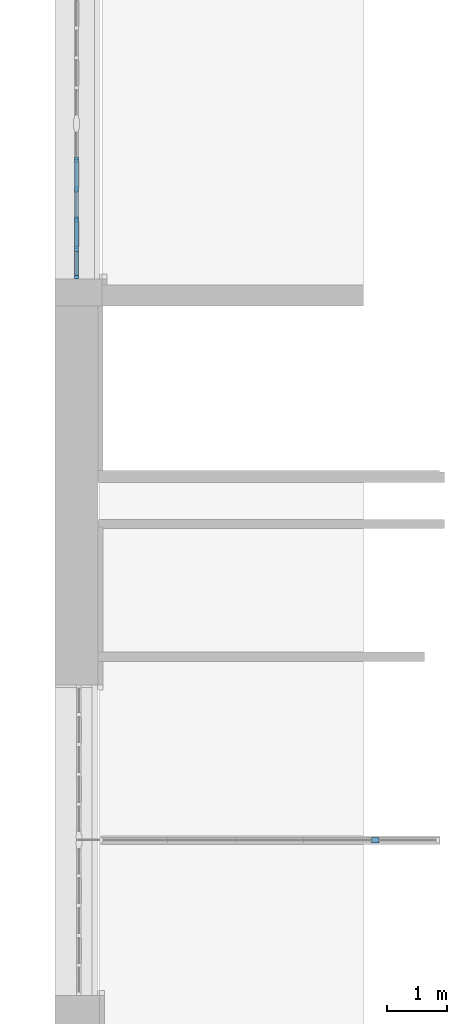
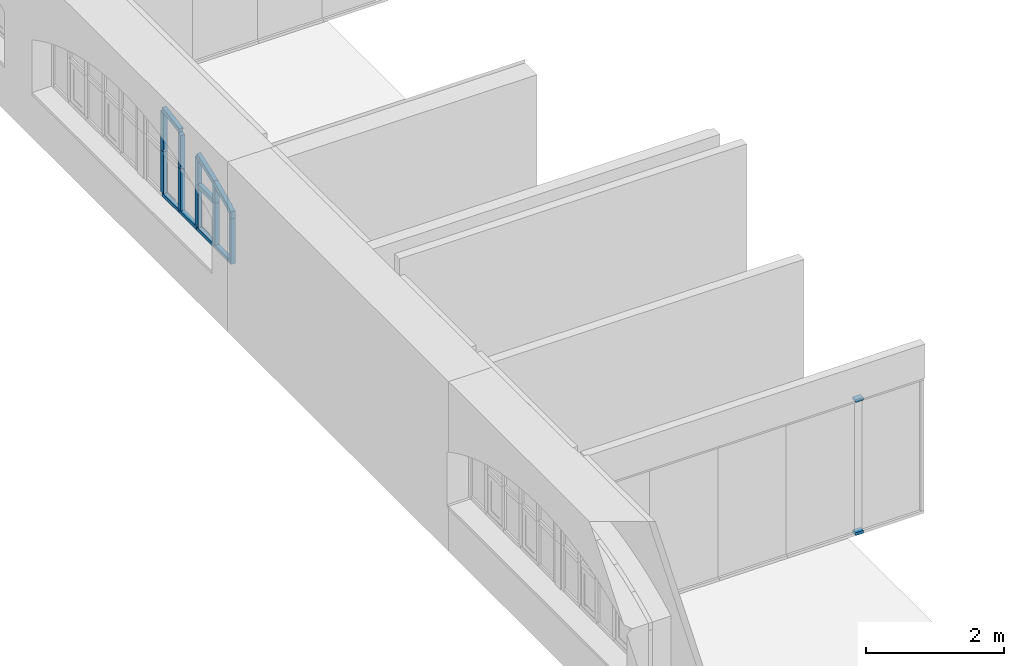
# One storey, part 12 of 32: 20 members, 2 elements without a shape of their own.
"""IFC2X3 building model written with IfcOpenShell, lengths in millimetres."""

from ifc_helpers import new_model, entity, si_unit, converted_unit, derived_unit, direction, frame, frame_2d, origin, place, context, subcontext, project, spatial, polyline, circle_curve, parameter, trimmed, segment, composite_curve, rectangle, outline, extrude, source, transform, mapped, material, type_object, type_shapes, element, aggregate, save


model = new_model("IFC2X3")

# Units and contexts
model_context = context("Model", 3, precision=0.01, world=origin(), true_north=direction((6.123031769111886e-17, 1.0)))
body_context = subcontext(model_context, "Body", "Model", "MODEL_VIEW")
ifc_project = project(units=[si_unit("LENGTHUNIT", "METRE", prefix="MILLI"), si_unit("AREAUNIT", "SQUARE_METRE"), si_unit("VOLUMEUNIT", "CUBIC_METRE"), converted_unit("PLANEANGLEUNIT", "DEGREE", entity("IfcPlaneAngleMeasure", 0.017453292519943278), si_unit("PLANEANGLEUNIT", "RADIAN"), dimensions=[0, 0, 0, 0, 0, 0, 0]), si_unit("MASSUNIT", "GRAM", prefix="KILO"), derived_unit("MASSDENSITYUNIT", [(si_unit("MASSUNIT", "GRAM", prefix="KILO"), 1), (si_unit("LENGTHUNIT", "METRE"), -3)]), derived_unit("IONCONCENTRATIONUNIT", [(si_unit("MASSUNIT", "GRAM", prefix="KILO"), 1), (si_unit("LENGTHUNIT", "METRE"), -3)]), derived_unit("MOMENTOFINERTIAUNIT", [(si_unit("LENGTHUNIT", "METRE"), 4)]), si_unit("TIMEUNIT", "SECOND"), si_unit("FREQUENCYUNIT", "HERTZ"), si_unit("THERMODYNAMICTEMPERATUREUNIT", "DEGREE_CELSIUS"), derived_unit("THERMALTRANSMITTANCEUNIT", [(si_unit("MASSUNIT", "GRAM", prefix="KILO"), 1), (si_unit("THERMODYNAMICTEMPERATUREUNIT", "KELVIN"), -1), (si_unit("TIMEUNIT", "SECOND"), -3)]), derived_unit("THERMALCONDUCTANCEUNIT", [(si_unit("MASSUNIT", "GRAM", prefix="KILO"), 1), (si_unit("THERMODYNAMICTEMPERATUREUNIT", "KELVIN"), -1), (si_unit("TIMEUNIT", "SECOND"), -3), (si_unit("LENGTHUNIT", "METRE"), 1)]), derived_unit("VOLUMETRICFLOWRATEUNIT", [(si_unit("LENGTHUNIT", "METRE", prefix="DECI"), 3), (si_unit("TIMEUNIT", "SECOND"), -1)]), derived_unit("MASSFLOWRATEUNIT", [(si_unit("MASSUNIT", "GRAM", prefix="KILO"), 1), (si_unit("TIMEUNIT", "SECOND"), -1)]), derived_unit("ROTATIONALFREQUENCYUNIT", [(si_unit("TIMEUNIT", "SECOND"), -1)]), si_unit("ELECTRICCURRENTUNIT", "AMPERE"), si_unit("ELECTRICVOLTAGEUNIT", "VOLT"), si_unit("POWERUNIT", "WATT"), si_unit("FORCEUNIT", "NEWTON", prefix="KILO"), si_unit("ILLUMINANCEUNIT", "LUX"), si_unit("LUMINOUSFLUXUNIT", "LUMEN"), si_unit("LUMINOUSINTENSITYUNIT", "CANDELA"), si_unit("ENERGYUNIT", "JOULE"), derived_unit("USERDEFINED", [(si_unit("MASSUNIT", "GRAM", prefix="KILO"), -1), (si_unit("LENGTHUNIT", "METRE"), -2), (si_unit("TIMEUNIT", "SECOND"), 3), (si_unit("LUMINOUSFLUXUNIT", "LUMEN"), 1)]), derived_unit("USERDEFINED", [(si_unit("MASSUNIT", "GRAM", prefix="KILO"), 1), (si_unit("TIMEUNIT", "SECOND"), -3), (si_unit("LENGTHUNIT", "METRE"), 3), (si_unit("ELECTRICCURRENTUNIT", "AMPERE"), -2)]), derived_unit("SOUNDPOWERUNIT", [(si_unit("MASSUNIT", "GRAM", prefix="KILO"), 1), (si_unit("TIMEUNIT", "SECOND"), -3), (si_unit("LENGTHUNIT", "METRE"), 2)]), derived_unit("SOUNDPRESSUREUNIT", [(si_unit("MASSUNIT", "GRAM", prefix="KILO"), 1), (si_unit("LENGTHUNIT", "METRE"), -1), (si_unit("TIMEUNIT", "SECOND"), -2)]), derived_unit("LINEARVELOCITYUNIT", [(si_unit("LENGTHUNIT", "METRE"), 1), (si_unit("TIMEUNIT", "SECOND"), -1)]), si_unit("PRESSUREUNIT", "PASCAL"), derived_unit("USERDEFINED", [(si_unit("MASSUNIT", "GRAM", prefix="KILO"), 1), (si_unit("LENGTHUNIT", "METRE"), -2), (si_unit("TIMEUNIT", "SECOND"), -2)]), derived_unit("LINEARFORCEUNIT", [(si_unit("MASSUNIT", "GRAM", prefix="KILO"), 1), (si_unit("TIMEUNIT", "SECOND"), -2)]), derived_unit("PLANARFORCEUNIT", [(si_unit("MASSUNIT", "GRAM", prefix="KILO"), 1), (si_unit("LENGTHUNIT", "METRE"), -1), (si_unit("TIMEUNIT", "SECOND"), -2)]), derived_unit("SPECIFICHEATCAPACITYUNIT", [(si_unit("THERMODYNAMICTEMPERATUREUNIT", "KELVIN"), -1), (si_unit("LENGTHUNIT", "METRE"), 2), (si_unit("TIMEUNIT", "SECOND"), -2)]), derived_unit("HEATFLUXDENSITYUNIT", [(si_unit("MASSUNIT", "GRAM", prefix="KILO"), 1), (si_unit("TIMEUNIT", "SECOND"), -3)]), derived_unit("HEATINGVALUEUNIT", [(si_unit("LENGTHUNIT", "METRE"), 2), (si_unit("TIMEUNIT", "SECOND"), -2)]), derived_unit("VAPORPERMEABILITYUNIT", [(si_unit("LENGTHUNIT", "METRE"), -1), (si_unit("TIMEUNIT", "SECOND"), 1)]), derived_unit("DYNAMICVISCOSITYUNIT", [(si_unit("MASSUNIT", "GRAM", prefix="KILO"), 1), (si_unit("TIMEUNIT", "SECOND"), -1), (si_unit("LENGTHUNIT", "METRE"), -1)]), derived_unit("THERMALEXPANSIONCOEFFICIENTUNIT", [(si_unit("THERMODYNAMICTEMPERATUREUNIT", "KELVIN"), -1)]), derived_unit("MODULUSOFELASTICITYUNIT", [(si_unit("MASSUNIT", "GRAM", prefix="KILO"), 1), (si_unit("LENGTHUNIT", "METRE"), -1), (si_unit("TIMEUNIT", "SECOND"), -2)]), derived_unit("ISOTHERMALMOISTURECAPACITYUNIT", [(si_unit("MASSUNIT", "GRAM", prefix="KILO"), -1), (si_unit("LENGTHUNIT", "METRE"), 3)]), derived_unit("MOISTUREDIFFUSIVITYUNIT", [(si_unit("TIMEUNIT", "SECOND"), -1), (si_unit("LENGTHUNIT", "METRE"), 2)]), derived_unit("MASSPERLENGTHUNIT", [(si_unit("MASSUNIT", "GRAM", prefix="KILO"), 1), (si_unit("LENGTHUNIT", "METRE"), -1)]), derived_unit("THERMALRESISTANCEUNIT", [(si_unit("MASSUNIT", "GRAM", prefix="KILO"), -1), (si_unit("TIMEUNIT", "SECOND"), 3), (si_unit("THERMODYNAMICTEMPERATUREUNIT", "KELVIN"), 1)]), derived_unit("ACCELERATIONUNIT", [(si_unit("LENGTHUNIT", "METRE"), 1), (si_unit("TIMEUNIT", "SECOND"), -2)]), derived_unit("ANGULARVELOCITYUNIT", [(si_unit("TIMEUNIT", "SECOND"), -1), (si_unit("PLANEANGLEUNIT", "RADIAN"), 1)]), derived_unit("LINEARSTIFFNESSUNIT", [(si_unit("MASSUNIT", "GRAM", prefix="KILO"), 1), (si_unit("TIMEUNIT", "SECOND"), -2)]), derived_unit("WARPINGCONSTANTUNIT", [(si_unit("LENGTHUNIT", "METRE"), 6)]), derived_unit("LINEARMOMENTUNIT", [(si_unit("MASSUNIT", "GRAM", prefix="KILO"), 1), (si_unit("LENGTHUNIT", "METRE"), 1), (si_unit("TIMEUNIT", "SECOND"), -2)]), derived_unit("TORQUEUNIT", [(si_unit("MASSUNIT", "GRAM", prefix="KILO"), 1), (si_unit("LENGTHUNIT", "METRE"), 2), (si_unit("TIMEUNIT", "SECOND"), -2)])], contexts=[model_context])

# Site, building, storey
site_placement = place(None, origin())
site = spatial("IfcSite", under=ifc_project, at=site_placement, Name="Default", CompositionType="ELEMENT")
building_placement = place(site_placement, origin())
building = spatial("IfcBuilding", under=site, at=building_placement, Name="Eesti Rahvusraamatukogu hoone renoveerimise projekteerimistööd", CompositionType="ELEMENT")
storey_placement = place(building_placement, frame((0.0, 0.0, 4950.000000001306)))
storey = spatial("IfcBuildingStorey", under=building, at=storey_placement, Name="2. korrus", CompositionType="ELEMENT", Elevation=4950.000000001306)

# Curtain wall, members
curtain_wall_type_1 = type_object("IfcCurtainWallType", Name="Curtain Wall:VLS Klaasvahesein profiilita 38db", PredefinedType="NOTDEFINED")
curtain_wall_1_placement = place(storey_placement, frame((0.0, 0.0, -4950.000000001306)))
curtain_wall_1 = element("IfcCurtainWall", 1, at=curtain_wall_1_placement, inside=storey, type_object=curtain_wall_type_1, Name="Curtain Wall:VLS Klaasvahesein profiilita 38db", ObjectType="Curtain Wall:VLS Klaasvahesein profiilita 38db")
ifc_material_1 = material(Name="Aluminum")
member_type_1 = type_object("IfcMemberType", Name="Rectangular Mullion:50mm x 92mm", PredefinedType="MULLION", material=ifc_material_1)
shared_shape_1 = source(origin(), body_context, "Body", "SweptSolid", [
    extrude(rectangle(XDim=50.0, YDim=92.0, at=frame_2d((0.0, 3.552713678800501e-15), x_axis=(1.0, 0.0))), frame((-25.0, 0.0, -128.3333333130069), z_axis=(0.0, 0.0, 1.0), x_axis=(-1.0, 0.0, 0.0)), (0.0, 0.0, 1.0), 128.3333333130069),
])
type_shapes(member_type_1, [shared_shape_1])
member_1_placement = place(curtain_wall_1_placement, frame((-31480.000000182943, 21350.0, 4950.0), z_axis=(-1.0, 0.0, 0.0), x_axis=(0.0, 0.0, -1.0)))
member_1 = element("IfcMember", 2, at=member_1_placement, type_object=member_type_1, material=ifc_material_1, Name="Rectangular Mullion:50mm x 92mm", ObjectType="Rectangular Mullion:50mm x 92mm", context=body_context, shape_type="MappedRepresentation", body=[
    mapped(shared_shape_1, transform((0.0, 0.0, 0.0), scale=1.0)),
])
member_type_2 = type_object("IfcMemberType", Name="Rectangular Mullion:50mm x 92mm", PredefinedType="MULLION", material=ifc_material_1)
shared_shape_2 = source(origin(), body_context, "Body", "SweptSolid", [
    extrude(rectangle(XDim=50.0, YDim=92.0, at=frame_2d((0.0, 3.552713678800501e-15), x_axis=(1.0, 0.0))), frame((-25.0, 0.0, -128.3333333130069), z_axis=(0.0, 0.0, 1.0), x_axis=(-1.0, 0.0, 0.0)), (0.0, 0.0, 1.0), 128.3333333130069),
])
type_shapes(member_type_2, [shared_shape_2])
member_2_placement = place(curtain_wall_1_placement, frame((-31351.666666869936, 21350.0, 7350.0), z_axis=(1.0, 0.0, 0.0), x_axis=(0.0, 0.0, 1.0)))
member_2 = element("IfcMember", 3, at=member_2_placement, type_object=member_type_2, material=ifc_material_1, Name="Rectangular Mullion:50mm x 92mm", ObjectType="Rectangular Mullion:50mm x 92mm", context=body_context, shape_type="MappedRepresentation", body=[
    mapped(shared_shape_2, transform((0.0, 0.0, 0.0), scale=1.0)),
])
aggregate(curtain_wall_1, [member_1, member_2])

curtain_wall_type_2 = type_object("IfcCurtainWallType", Name="Curtain Wall:Ak-04", PredefinedType="NOTDEFINED")
curtain_wall_2_placement = place(storey_placement, frame((0.0, 0.0, -4950.000000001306)))
curtain_wall_2 = element("IfcCurtainWall", 4, at=curtain_wall_2_placement, inside=storey, type_object=curtain_wall_type_2, Name="Curtain Wall:Ak-04", ObjectType="Curtain Wall:Ak-04")
ifc_material_2 = material(Name="LUMION_dark steel window frames")
member_type_3 = type_object("IfcMemberType", Name="Rectangular Mullion:NEW 80x70mm", PredefinedType="MULLION", material=ifc_material_2)
shared_shape_3 = source(origin(), body_context, "Body", "SweptSolid", [
    extrude(rectangle(XDim=80.0, YDim=70.0, at=frame_2d((0.0, -3.552713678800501e-15), x_axis=(1.0, 0.0))), frame((0.0, 0.0, -420.0), z_axis=(0.0, 0.0, 1.0), x_axis=(-1.0, 0.0, 0.0)), (0.0, 0.0, 1.0), 419.999999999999),
])
type_shapes(member_type_3, [shared_shape_3])
member_3_placement = place(curtain_wall_2_placement, frame((-36425.0, 31295.440291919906, 6550.000000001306), z_axis=(0.0, -1.0, 0.0), x_axis=(0.0, 0.0, 1.0)))
member_3 = element("IfcMember", 5, at=member_3_placement, type_object=member_type_3, material=ifc_material_2, Name="Rectangular Mullion:NEW 80x70mm", ObjectType="Rectangular Mullion:NEW 80x70mm", context=body_context, shape_type="MappedRepresentation", body=[
    mapped(shared_shape_3, transform((0.0, 0.0, 0.0), scale=1.0)),
])
member_type_4 = type_object("IfcMemberType", Name="Rectangular Mullion:NEW 60x70mm", PredefinedType="MULLION", material=ifc_material_2)
shared_shape_4 = source(origin(), body_context, "Body", "SweptSolid", [
    extrude(rectangle(XDim=60.0, YDim=70.0, at=frame_2d((0.0, 3.552713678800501e-15), x_axis=(1.0, 0.0))), frame((-30.0, 0.0, -500.0), z_axis=(0.0, 0.0, 1.0), x_axis=(-1.0, 0.0, 0.0)), (0.0, 0.0, 1.0), 499.999999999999),
])
type_shapes(member_type_4, [shared_shape_4])
member_4_placement = place(curtain_wall_2_placement, frame((-36425.0, 32755.440291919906, 5750.000000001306), z_axis=(0.0, 1.0, 0.0), x_axis=(0.0, 0.0, -1.0)))
member_4 = element("IfcMember", 6, at=member_4_placement, type_object=member_type_4, material=ifc_material_2, Name="Rectangular Mullion:NEW 60x70mm", ObjectType="Rectangular Mullion:NEW 60x70mm", context=body_context, shape_type="MappedRepresentation", body=[
    mapped(shared_shape_4, transform((0.0, 0.0, 0.0), scale=1.0)),
])
member_5_placement = place(curtain_wall_2_placement, frame((-36425.0, 32255.44029191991, 5750.000000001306), z_axis=(0.0, 1.0, 0.0), x_axis=(0.0, 0.0, -1.0)))
member_5 = element("IfcMember", 7, at=member_5_placement, type_object=member_type_4, material=ifc_material_2, Name="Rectangular Mullion:NEW 60x70mm", ObjectType="Rectangular Mullion:NEW 60x70mm", context=body_context, shape_type="MappedRepresentation", body=[
    mapped(shared_shape_4, transform((0.0, 0.0, 0.0), scale=1.0)),
])
member_6_placement = place(curtain_wall_2_placement, frame((-36425.0, 31755.44029191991, 5750.000000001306), z_axis=(0.0, 1.0, 0.0), x_axis=(0.0, 0.0, -1.0)))
member_6 = element("IfcMember", 8, at=member_6_placement, type_object=member_type_4, material=ifc_material_2, Name="Rectangular Mullion:NEW 60x70mm", ObjectType="Rectangular Mullion:NEW 60x70mm", context=body_context, shape_type="MappedRepresentation", body=[
    mapped(shared_shape_4, transform((0.0, 0.0, 0.0), scale=1.0)),
])
member_type_5 = type_object("IfcMemberType", Name="Rectangular Mullion:NEW 60x70mm", PredefinedType="MULLION", material=ifc_material_2)
shared_shape_5 = source(origin(), body_context, "Body", "SweptSolid", [
    extrude(rectangle(XDim=60.0, YDim=70.0, at=frame_2d((0.0, 3.552713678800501e-15), x_axis=(1.0, 0.0))), frame((-30.0, 0.0, -440.0), z_axis=(0.0, 0.0, 1.0), x_axis=(-1.0, 0.0, 0.0)), (0.0, 0.0, 1.0), 439.9999999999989),
])
type_shapes(member_type_5, [shared_shape_5])
member_7_placement = place(curtain_wall_2_placement, frame((-36425.0, 31255.44029191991, 5750.000000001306), z_axis=(0.0, 1.0, 0.0), x_axis=(0.0, 0.0, -1.0)))
member_7 = element("IfcMember", 9, at=member_7_placement, type_object=member_type_5, material=ifc_material_2, Name="Rectangular Mullion:NEW 60x70mm", ObjectType="Rectangular Mullion:NEW 60x70mm", context=body_context, shape_type="MappedRepresentation", body=[
    mapped(shared_shape_5, transform((0.0, 0.0, 0.0), scale=1.0)),
])
member_type_6 = type_object("IfcMemberType", Name="Rectangular Mullion:NEW 80x70mm", PredefinedType="MULLION", material=ifc_material_2)
shared_shape_6 = source(origin(), body_context, "Body", "SweptSolid", [
    extrude(outline(composite_curve([segment(polyline([(-174.30772999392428, -46.24561306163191), (94.42385048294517, -46.24561306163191)]), True, "CONTINUOUS"), segment(trimmed(circle_curve(frame_2d((-4754.083849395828, 2093.7543869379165), x_axis=(0.8754595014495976, -0.48329148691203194)), 5299.776119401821), [parameter(5.085231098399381)], [parameter(5.924265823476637)], True, "PARAMETER"), True, "CONTINUOUS"), segment(trimmed(circle_curve(frame_2d((-4754.0838493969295, 2093.7543869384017), x_axis=(0.9206661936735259, -0.3903508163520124)), 5299.776119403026), [parameter(0.0)], [parameter(0.10296582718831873)], True, "PARAMETER"), True, "CONTINUOUS"), segment(polyline([(128.9507517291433, 33.75438693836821), (-174.30772999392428, 33.75438693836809)]), True, "CONTINUOUS"), segment(polyline([(-174.30772999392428, 33.75438693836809), (-174.30772999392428, -46.24561306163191)]), True, "CONTINUOUS")], self_intersect=False)), frame((-6.245613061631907, -35.0, -174.30772999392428), z_axis=(0.0, 1.0, 0.0), x_axis=(0.0, 0.0, -1.0)), (0.0, 0.0, 1.0), 70.00000000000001),
])
type_shapes(member_type_6, [shared_shape_6])
member_8_placement = place(curtain_wall_2_placement, frame((-36425.0, 31255.440291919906, 6550.000000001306), z_axis=(0.0, 0.0, -1.0), x_axis=(0.0, -1.0, 0.0)))
member_8 = element("IfcMember", 10, at=member_8_placement, type_object=member_type_6, material=ifc_material_2, Name="Rectangular Mullion:NEW 80x70mm", ObjectType="Rectangular Mullion:NEW 80x70mm", context=body_context, shape_type="MappedRepresentation", body=[
    mapped(shared_shape_6, transform((0.0, 0.0, 0.0), scale=1.0)),
])
member_type_7 = type_object("IfcMemberType", Name="Rectangular Mullion:NEW 80x70mm", PredefinedType="MULLION", material=ifc_material_2)
shared_shape_7 = source(origin(), body_context, "Body", "SweptSolid", [
    extrude(rectangle(XDim=80.0, YDim=70.0, at=frame_2d((0.0, -3.552713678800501e-15), x_axis=(1.0, 0.0))), frame((0.0, 0.0, -740.0), z_axis=(0.0, 0.0, 1.0), x_axis=(-1.0, 0.0, 0.0)), (0.0, 0.0, 1.0), 740.0),
])
type_shapes(member_type_7, [shared_shape_7])
member_9_placement = place(curtain_wall_2_placement, frame((-36425.0, 31255.44029191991, 5810.000000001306), z_axis=(0.0, 0.0, -1.0), x_axis=(0.0, -1.0, 0.0)))
member_9 = element("IfcMember", 11, at=member_9_placement, type_object=member_type_7, material=ifc_material_2, Name="Rectangular Mullion:NEW 80x70mm", ObjectType="Rectangular Mullion:NEW 80x70mm", context=body_context, shape_type="MappedRepresentation", body=[
    mapped(shared_shape_7, transform((0.0, 0.0, 0.0), scale=1.0)),
])
member_10_placement = place(curtain_wall_2_placement, frame((-36425.0, 31755.44029191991, 5810.000000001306), z_axis=(0.0, 0.0, -1.0), x_axis=(0.0, -1.0, 0.0)))
member_10 = element("IfcMember", 12, at=member_10_placement, type_object=member_type_7, material=ifc_material_2, Name="Rectangular Mullion:NEW 80x70mm", ObjectType="Rectangular Mullion:NEW 80x70mm", context=body_context, shape_type="MappedRepresentation", body=[
    mapped(shared_shape_7, transform((0.0, 0.0, 0.0), scale=1.0)),
])
member_11_placement = place(curtain_wall_2_placement, frame((-36425.0, 32255.44029191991, 5810.000000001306), z_axis=(0.0, 0.0, -1.0), x_axis=(0.0, -1.0, 0.0)))
member_11 = element("IfcMember", 13, at=member_11_placement, type_object=member_type_7, material=ifc_material_2, Name="Rectangular Mullion:NEW 80x70mm", ObjectType="Rectangular Mullion:NEW 80x70mm", context=body_context, shape_type="MappedRepresentation", body=[
    mapped(shared_shape_7, transform((0.0, 0.0, 0.0), scale=1.0)),
])
member_12_placement = place(curtain_wall_2_placement, frame((-36425.0, 32755.440291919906, 5810.000000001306), z_axis=(0.0, 0.0, -1.0), x_axis=(0.0, -1.0, 0.0)))
member_12 = element("IfcMember", 14, at=member_12_placement, type_object=member_type_7, material=ifc_material_2, Name="Rectangular Mullion:NEW 80x70mm", ObjectType="Rectangular Mullion:NEW 80x70mm", context=body_context, shape_type="MappedRepresentation", body=[
    mapped(shared_shape_7, transform((0.0, 0.0, 0.0), scale=1.0)),
])
member_type_8 = type_object("IfcMemberType", Name="Rectangular Mullion:NEW 80x70mm", PredefinedType="MULLION", material=ifc_material_2)
shared_shape_8 = source(origin(), body_context, "Body", "SweptSolid", [
    extrude(outline(composite_curve([segment(polyline([(-285.0515721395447, -44.75856233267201), (174.81782335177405, -44.75856233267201)]), True, "CONTINUOUS"), segment(trimmed(circle_curve(frame_2d((-4864.82769154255, 1595.2414376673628), x_axis=(0.9206661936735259, -0.3903508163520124)), 5299.776119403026), [parameter(4.950420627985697)], [parameter(5.674213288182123)], True, "PARAMETER"), True, "CONTINUOUS"), segment(trimmed(circle_curve(frame_2d((-4864.827691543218, 1595.2414376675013), x_axis=(0.9547498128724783, -0.297410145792)), 5299.776119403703), [parameter(0.0)], [parameter(0.18342876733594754)], True, "PARAMETER"), True, "CONTINUOUS"), segment(polyline([(200.15275420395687, 35.24143766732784), (-285.0515721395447, 35.24143766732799)]), True, "CONTINUOUS"), segment(polyline([(-285.0515721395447, 35.24143766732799), (-285.0515721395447, -44.75856233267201)]), True, "CONTINUOUS")], self_intersect=False)), frame((-4.758562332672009, -35.0, -285.0515721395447), z_axis=(0.0, 1.0, 0.0), x_axis=(0.0, 0.0, -1.0)), (0.0, 0.0, 1.0), 70.00000000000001),
])
type_shapes(member_type_8, [shared_shape_8])
member_13_placement = place(curtain_wall_2_placement, frame((-36425.0, 31755.44029191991, 6550.000000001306), z_axis=(0.0, 0.0, -1.0), x_axis=(0.0, -1.0, 0.0)))
member_13 = element("IfcMember", 15, at=member_13_placement, type_object=member_type_8, material=ifc_material_2, Name="Rectangular Mullion:NEW 80x70mm", ObjectType="Rectangular Mullion:NEW 80x70mm", context=body_context, shape_type="MappedRepresentation", body=[
    mapped(shared_shape_8, transform((0.0, 0.0, 0.0), scale=1.0)),
])
member_type_9 = type_object("IfcMemberType", Name="Rectangular Mullion:NEW 80x70mm", PredefinedType="MULLION", material=ifc_material_2)
shared_shape_9 = source(origin(), body_context, "Body", "SweptSolid", [
    extrude(outline(composite_curve([segment(polyline([(-363.37678895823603, -43.27151160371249), (232.56220317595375, -43.27151160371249)]), True, "CONTINUOUS"), segment(trimmed(circle_curve(frame_2d((-4943.152908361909, 1096.728488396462), x_axis=(0.9547498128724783, -0.29741014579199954)), 5299.776119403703), [parameter(4.880521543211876)], [parameter(5.5036722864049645)], True, "PARAMETER"), True, "CONTINUOUS"), segment(trimmed(circle_curve(frame_2d((-4943.152908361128, 1096.72848839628), x_axis=(0.9788729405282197, -0.20446947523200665)), 5299.7761194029), [parameter(0.0)], [parameter(0.2609913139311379)], True, "PARAMETER"), True, "CONTINUOUS"), segment(polyline([(249.536848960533, 36.728488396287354), (-363.37678895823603, 36.72848839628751)]), True, "CONTINUOUS"), segment(polyline([(-363.37678895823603, 36.72848839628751), (-363.37678895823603, -43.27151160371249)]), True, "CONTINUOUS")], self_intersect=False)), frame((-3.271511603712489, -35.0, -363.37678895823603), z_axis=(0.0, 1.0, 0.0), x_axis=(0.0, 0.0, -1.0)), (0.0, 0.0, 1.0), 70.00000000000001),
])
type_shapes(member_type_9, [shared_shape_9])
member_14_placement = place(curtain_wall_2_placement, frame((-36425.0, 32255.44029191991, 6550.000000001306), z_axis=(0.0, 0.0, -1.0), x_axis=(0.0, -1.0, 0.0)))
member_14 = element("IfcMember", 16, at=member_14_placement, type_object=member_type_9, material=ifc_material_2, Name="Rectangular Mullion:NEW 80x70mm", ObjectType="Rectangular Mullion:NEW 80x70mm", context=body_context, shape_type="MappedRepresentation", body=[
    mapped(shared_shape_9, transform((0.0, 0.0, 0.0), scale=1.0)),
])
member_type_10 = type_object("IfcMemberType", Name="Rectangular Mullion:NEW 80x70mm", PredefinedType="MULLION", material=ifc_material_2)
shared_shape_10 = source(origin(), body_context, "Body", "SweptSolid", [
    extrude(outline(composite_curve([segment(polyline([(-411.69630029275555, -41.78446087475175), (269.51863863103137, -41.78446087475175)]), True, "CONTINUOUS"), segment(trimmed(circle_curve(frame_2d((-4991.472419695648, 598.2155391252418), x_axis=(0.9788729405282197, -0.20446947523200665)), 5299.7761194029), [parameter(4.862488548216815)], [parameter(5.39499243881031)], True, "PARAMETER"), True, "CONTINUOUS"), segment(trimmed(circle_curve(frame_2d((-4991.472419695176, 598.2155391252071), x_axis=(0.9937612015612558, -0.11152880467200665)), 5299.776119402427), [parameter(0.0)], [parameter(0.3379797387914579)], True, "PARAMETER"), True, "CONTINUOUS"), segment(polyline([(278.63449722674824, 38.21553912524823), (-411.69630029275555, 38.21553912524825)]), True, "CONTINUOUS"), segment(polyline([(-411.69630029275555, 38.21553912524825), (-411.69630029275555, -41.78446087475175)]), True, "CONTINUOUS")], self_intersect=False)), frame((-1.7844608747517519, -35.0, -411.69630029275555), z_axis=(0.0, 1.0, 0.0), x_axis=(0.0, 0.0, -1.0)), (0.0, 0.0, 1.0), 69.99999999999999),
])
type_shapes(member_type_10, [shared_shape_10])
member_15_placement = place(curtain_wall_2_placement, frame((-36425.0, 32755.440291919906, 6550.000000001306), z_axis=(0.0, 0.0, -1.0), x_axis=(0.0, -1.0, 0.0)))
member_15 = element("IfcMember", 17, at=member_15_placement, type_object=member_type_10, material=ifc_material_2, Name="Rectangular Mullion:NEW 80x70mm", ObjectType="Rectangular Mullion:NEW 80x70mm", context=body_context, shape_type="MappedRepresentation", body=[
    mapped(shared_shape_10, transform((0.0, 0.0, 0.0), scale=1.0)),
])
member_type_11 = type_object("IfcMemberType", Name="Rectangular Mullion:NEW 60x70mm", PredefinedType="MULLION", material=ifc_material_2)
shared_shape_11 = source(origin(), body_context, "Body", "SweptSolid", [
    extrude(outline(polyline([(-50.43550252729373, -30.0), (79.56449747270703, -30.0), (21.306507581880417, 30.0), (-50.43550252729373, 30.0), (-50.43550252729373, -30.0)])), frame((-30.0, -35.0, -50.43550252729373), z_axis=(0.0, 1.0, 0.0), x_axis=(0.0, 0.0, -1.0)), (0.0, 0.0, 1.0), 70.00000000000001),
])
type_shapes(member_type_11, [shared_shape_11])
member_16_placement = place(curtain_wall_2_placement, frame((-36425.0, 30755.440291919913, 6550.000000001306), z_axis=(0.0, 0.0, -1.0), x_axis=(0.0, -1.0, 0.0)))
member_16 = element("IfcMember", 18, at=member_16_placement, type_object=member_type_11, material=ifc_material_2, Name="Rectangular Mullion:NEW 60x70mm", ObjectType="Rectangular Mullion:NEW 60x70mm", context=body_context, shape_type="MappedRepresentation", body=[
    mapped(shared_shape_11, transform((0.0, 0.0, 0.0), scale=1.0)),
])
member_type_12 = type_object("IfcMemberType", Name="Rectangular Mullion:NEW 60x70mm", PredefinedType="MULLION", material=ifc_material_2)
shared_shape_12 = source(origin(), body_context, "Body", "SweptSolid", [
    extrude(rectangle(XDim=60.0, YDim=70.0, at=frame_2d((0.0, -3.552713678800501e-15), x_axis=(1.0, 0.0))), frame((-30.0, 0.0, -800.0), z_axis=(0.0, 0.0, 1.0), x_axis=(-1.0, 0.0, 0.0)), (0.0, 0.0, 1.0), 800.0),
])
type_shapes(member_type_12, [shared_shape_12])
member_17_placement = place(curtain_wall_2_placement, frame((-36425.0, 30755.440291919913, 5750.000000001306), z_axis=(0.0, 0.0, -1.0), x_axis=(0.0, -1.0, 0.0)))
member_17 = element("IfcMember", 19, at=member_17_placement, type_object=member_type_12, material=ifc_material_2, Name="Rectangular Mullion:NEW 60x70mm", ObjectType="Rectangular Mullion:NEW 60x70mm", context=body_context, shape_type="MappedRepresentation", body=[
    mapped(shared_shape_12, transform((0.0, 0.0, 0.0), scale=1.0)),
])
member_type_13 = type_object("IfcMemberType", Name="Rectangular Mullion:NEW 80x70mm", PredefinedType="MULLION", material=ifc_material_2)
shared_shape_13 = source(origin(), body_context, "Body", "SweptSolid", [
    extrude(outline(composite_curve([segment(polyline([(-51.82710825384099, -251.02635265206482), (28.172891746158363, -251.02635265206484)]), True, "CONTINUOUS"), segment(trimmed(circle_curve(frame_2d((5327.949011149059, -251.02635265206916), x_axis=(-0.995570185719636, 0.09402130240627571)), 5299.7761194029), [parameter(3.5622212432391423e-13)], [parameter(5.39499243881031)], True, "PARAMETER"), False, "CONTINUOUS"), segment(polyline([(51.64991568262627, 247.26550055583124), (-27.995699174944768, 254.78720474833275)]), True, "CONTINUOUS"), segment(trimmed(circle_curve(frame_2d((5327.949011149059, -251.02635265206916), x_axis=(-0.995570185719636, 0.09402130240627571)), 5379.7761194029), [parameter(3.5622212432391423e-13)], [parameter(5.39499243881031)], True, "PARAMETER"), True, "CONTINUOUS")], self_intersect=False)), frame((-51.827108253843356, -35.0, -251.02635265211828), z_axis=(0.0, 1.0, 0.0), x_axis=(-0.9955701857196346, 0.0, 0.09402130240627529)), (0.0, 0.0, 1.0), 70.00000000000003),
])
type_shapes(member_type_13, [shared_shape_13])
member_18_placement = place(curtain_wall_2_placement, frame((-36425.0, 32255.44029191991, 7236.3411499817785), z_axis=(0.0, -0.978872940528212, -0.20446947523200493), x_axis=(0.0, -0.20446947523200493, 0.978872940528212)))
member_18 = element("IfcMember", 20, at=member_18_placement, type_object=member_type_13, material=ifc_material_2, Name="Rectangular Mullion:NEW 80x70mm", ObjectType="Rectangular Mullion:NEW 80x70mm", context=body_context, shape_type="MappedRepresentation", body=[
    mapped(shared_shape_13, transform((0.0, 0.0, 0.0), scale=1.0)),
])
member_type_14 = type_object("IfcMemberType", Name="Rectangular Mullion:NEW 80x70mm", PredefinedType="MULLION", material=ifc_material_2)
shared_shape_14 = source(origin(), body_context, "Body", "SweptSolid", [
    extrude(outline(composite_curve([segment(polyline([(-53.081999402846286, -263.9769105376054), (26.918000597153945, -263.9769105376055)]), True, "CONTINUOUS"), segment(trimmed(circle_curve(frame_2d((5326.694120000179, -263.97691053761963), x_axis=(-0.9951001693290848, 0.09887190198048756)), 5299.776119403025), [parameter(3.5622212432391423e-13)], [parameter(5.674213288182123)], True, "PARAMETER"), False, "CONTINUOUS"), segment(polyline([(52.886006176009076, 260.0220344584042), (-26.722007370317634, 267.9317866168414)]), True, "CONTINUOUS"), segment(trimmed(circle_curve(frame_2d((5326.694120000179, -263.97691053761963), x_axis=(-0.9951001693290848, 0.09887190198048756)), 5379.776119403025), [parameter(3.5622212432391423e-13)], [parameter(5.674213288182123)], True, "PARAMETER"), True, "CONTINUOUS")], self_intersect=False)), frame((-53.0819994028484, -35.0, -263.97691053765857), z_axis=(0.0, 1.0, 0.0), x_axis=(-0.9951001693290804, 0.0, 0.09887190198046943)), (0.0, 0.0, 1.0), 69.99999999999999),
])
type_shapes(member_type_14, [shared_shape_14])
member_19_placement = place(curtain_wall_2_placement, frame((-36425.0, 31255.44029191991, 6923.201883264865), z_axis=(0.0, -0.9206661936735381, -0.3903508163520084), x_axis=(0.0, -0.3903508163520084, 0.9206661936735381)))
member_19 = element("IfcMember", 21, at=member_19_placement, type_object=member_type_14, material=ifc_material_2, Name="Rectangular Mullion:NEW 80x70mm", ObjectType="Rectangular Mullion:NEW 80x70mm", context=body_context, shape_type="MappedRepresentation", body=[
    mapped(shared_shape_14, transform((0.0, 0.0, 0.0), scale=1.0)),
])
member_type_15 = type_object("IfcMemberType", Name="Rectangular Mullion:NEW 80x70mm", PredefinedType="MULLION", material=ifc_material_2)
shared_shape_15 = source(origin(), body_context, "Body", "SweptSolid", [
    extrude(outline(composite_curve([segment(polyline([(-53.643988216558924, -269.50314648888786), (26.35601178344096, -269.503146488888)]), True, "CONTINUOUS"), segment(trimmed(circle_curve(frame_2d((5326.132131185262, -269.5031464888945), x_axis=(-0.9946591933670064, 0.10321380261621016)), 5299.77611940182), [parameter(0.263670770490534)], [parameter(5.924265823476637)], True, "PARAMETER"), False, "CONTINUOUS"), segment(polyline([(52.19962066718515, 253.24228895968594), (-24.911644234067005, 285.7640040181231)]), True, "CONTINUOUS"), segment(trimmed(circle_curve(frame_2d((5326.132131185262, -269.5031464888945), x_axis=(-0.9946591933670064, 0.10321380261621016)), 5379.77611940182), [parameter(3.5622212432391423e-13)], [parameter(5.924265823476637)], True, "PARAMETER"), True, "CONTINUOUS")], self_intersect=False)), frame((-54.273385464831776, -35.0, -281.6665681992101), z_axis=(0.0, 1.0, 0.0), x_axis=(-0.9946591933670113, 0.0, 0.1032138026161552)), (0.0, 0.0, 1.0), 69.99999999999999),
])
type_shapes(member_type_15, [shared_shape_15])
member_20_placement = place(curtain_wall_2_placement, frame((-36425.0, 30755.440291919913, 6680.000000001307), z_axis=(0.0, -0.8754595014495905, -0.4832914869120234), x_axis=(0.0, -0.4832914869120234, 0.8754595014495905)))
member_20 = element("IfcMember", 22, at=member_20_placement, type_object=member_type_15, material=ifc_material_2, Name="Rectangular Mullion:NEW 80x70mm", ObjectType="Rectangular Mullion:NEW 80x70mm", context=body_context, shape_type="MappedRepresentation", body=[
    mapped(shared_shape_15, transform((0.0, 0.0, 0.0), scale=1.0)),
])
aggregate(curtain_wall_2, [member_8, member_9, member_13, member_10, member_14, member_11, member_15, member_12, member_4, member_5, member_6, member_7, member_16, member_17, member_18, member_19, member_20, member_3])

save(model, "model.ifc")
